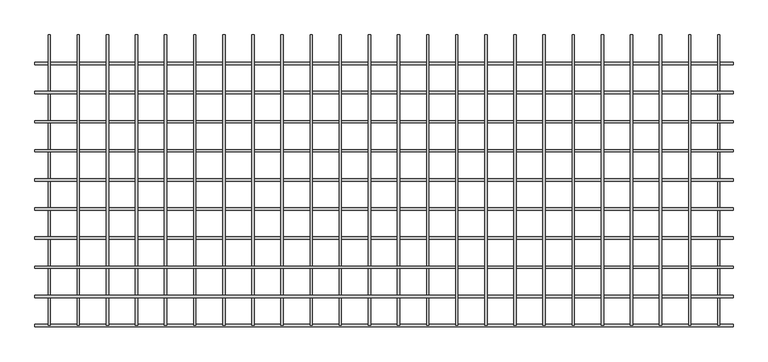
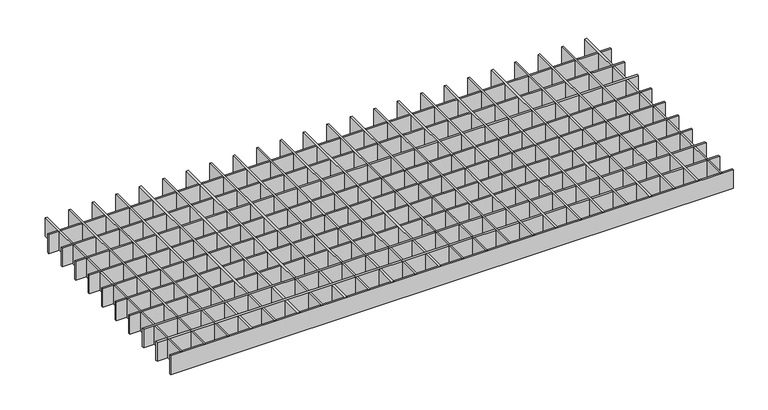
"""IFC4 building model written with IfcOpenShell, lengths in millimetres: proxy geometry, durlum_GEO_panel : durlum_GEO_4_width_cut."""

from ifc_helpers import new_model, si_unit, origin, origin_with_axes, place, context, project, spatial, polyline, outline, extrude, source, transform, mapped, element, save


def generic_models_507d97fd(model_context):
    return source(origin(), model_context, "Body", "SweptSolid", [
        extrude(outline(polyline([(523.0, 249.5), (527.0, 249.5), (527.0, -249.5), (523.0, -249.5), (523.0, 249.5)])), origin_with_axes(), (0.0, 0.0, 1.0), 42.0),
        extrude(outline(polyline([(473.0, 249.5), (477.0, 249.5), (477.0, -249.5), (473.0, -249.5), (473.0, 249.5)])), origin_with_axes(), (0.0, 0.0, 1.0), 42.0),
        extrude(outline(polyline([(423.0, 249.5), (427.0, 249.5), (427.0, -249.5), (423.0, -249.5), (423.0, 249.5)])), origin_with_axes(), (0.0, 0.0, 1.0), 42.0),
        extrude(outline(polyline([(373.0, 249.5), (377.0, 249.5), (377.0, -249.5), (373.0, -249.5), (373.0, 249.5)])), origin_with_axes(), (0.0, 0.0, 1.0), 42.0),
        extrude(outline(polyline([(323.0, 249.5), (327.0, 249.5), (327.0, -249.5), (323.0, -249.5), (323.0, 249.5)])), origin_with_axes(), (0.0, 0.0, 1.0), 42.0),
        extrude(outline(polyline([(273.0, 249.5), (277.0, 249.5), (277.0, -249.5), (273.0, -249.5), (273.0, 249.5)])), origin_with_axes(), (0.0, 0.0, 1.0), 42.0),
        extrude(outline(polyline([(223.0, 249.5), (227.0, 249.5), (227.0, -249.5), (223.0, -249.5), (223.0, 249.5)])), origin_with_axes(), (0.0, 0.0, 1.0), 42.0),
        extrude(outline(polyline([(173.0, 249.5), (177.0, 249.5), (177.0, -249.5), (173.0, -249.5), (173.0, 249.5)])), origin_with_axes(), (0.0, 0.0, 1.0), 42.0),
        extrude(outline(polyline([(123.0, 249.5), (127.0, 249.5), (127.0, -249.5), (123.0, -249.5), (123.0, 249.5)])), origin_with_axes(), (0.0, 0.0, 1.0), 42.0),
        extrude(outline(polyline([(599.5, -197.5), (599.5, -201.5), (-599.5, -201.5), (-599.5, -197.5), (599.5, -197.5)])), origin_with_axes(), (0.0, 0.0, 1.0), 42.0),
        extrude(outline(polyline([(599.5, -147.5), (599.5, -151.5), (-599.5, -151.5), (-599.5, -147.5), (599.5, -147.5)])), origin_with_axes(), (0.0, 0.0, 1.0), 42.0),
        extrude(outline(polyline([(73.0, 249.5), (77.0, 249.5), (77.0, -249.5), (73.0, -249.5), (73.0, 249.5)])), origin_with_axes(), (0.0, 0.0, 1.0), 42.0),
        extrude(outline(polyline([(23.0, 249.5), (27.0, 249.5), (27.0, -249.5), (23.0, -249.5), (23.0, 249.5)])), origin_with_axes(), (0.0, 0.0, 1.0), 42.0),
        extrude(outline(polyline([(-27.0, 249.5), (-23.0, 249.5), (-23.0, -249.5), (-27.0, -249.5), (-27.0, 249.5)])), origin_with_axes(), (0.0, 0.0, 1.0), 42.0),
        extrude(outline(polyline([(-77.0, 249.5), (-73.0, 249.5), (-73.0, -249.5), (-77.0, -249.5), (-77.0, 249.5)])), origin_with_axes(), (0.0, 0.0, 1.0), 42.0),
        extrude(outline(polyline([(-127.0, 249.5), (-123.0, 249.5), (-123.0, -249.5), (-127.0, -249.5), (-127.0, 249.5)])), origin_with_axes(), (0.0, 0.0, 1.0), 42.0),
        extrude(outline(polyline([(-177.0, 249.5), (-173.0, 249.5), (-173.0, -249.5), (-177.0, -249.5), (-177.0, 249.5)])), origin_with_axes(), (0.0, 0.0, 1.0), 42.0),
        extrude(outline(polyline([(-227.0, 249.5), (-223.0, 249.5), (-223.0, -249.5), (-227.0, -249.5), (-227.0, 249.5)])), origin_with_axes(), (0.0, 0.0, 1.0), 42.0),
        extrude(outline(polyline([(-277.0, 249.5), (-273.0, 249.5), (-273.0, -249.5), (-277.0, -249.5), (-277.0, 249.5)])), origin_with_axes(), (0.0, 0.0, 1.0), 42.0),
        extrude(outline(polyline([(-327.0, 249.5), (-323.0, 249.5), (-323.0, -249.5), (-327.0, -249.5), (-327.0, 249.5)])), origin_with_axes(), (0.0, 0.0, 1.0), 42.0),
        extrude(outline(polyline([(-377.0, 249.5), (-373.0, 249.5), (-373.0, -249.5), (-377.0, -249.5), (-377.0, 249.5)])), origin_with_axes(), (0.0, 0.0, 1.0), 42.0),
        extrude(outline(polyline([(-427.0, 249.5), (-423.0, 249.5), (-423.0, -249.5), (-427.0, -249.5), (-427.0, 249.5)])), origin_with_axes(), (0.0, 0.0, 1.0), 42.0),
        extrude(outline(polyline([(-477.0, 249.5), (-473.0, 249.5), (-473.0, -249.5), (-477.0, -249.5), (-477.0, 249.5)])), origin_with_axes(), (0.0, 0.0, 1.0), 42.0),
        extrude(outline(polyline([(-527.0, 249.5), (-523.0, 249.5), (-523.0, -249.5), (-527.0, -249.5), (-527.0, 249.5)])), origin_with_axes(), (0.0, 0.0, 1.0), 42.0),
        extrude(outline(polyline([(599.5, -97.5), (599.5, -101.5), (-599.5, -101.5), (-599.5, -97.5), (599.5, -97.5)])), origin_with_axes(), (0.0, 0.0, 1.0), 42.0),
        extrude(outline(polyline([(599.5, -47.5), (599.5, -51.5), (-599.5, -51.5), (-599.5, -47.5), (599.5, -47.5)])), origin_with_axes(), (0.0, 0.0, 1.0), 42.0),
        extrude(outline(polyline([(599.5, 2.5), (599.5, -1.5), (-599.5, -1.5), (-599.5, 2.5), (599.5, 2.5)])), origin_with_axes(), (0.0, 0.0, 1.0), 42.0),
        extrude(outline(polyline([(599.5, 52.5), (599.5, 48.5), (-599.5, 48.5), (-599.5, 52.5), (599.5, 52.5)])), origin_with_axes(), (0.0, 0.0, 1.0), 42.0),
        extrude(outline(polyline([(599.5, 102.5), (599.5, 98.5), (-599.5, 98.5), (-599.5, 102.5), (599.5, 102.5)])), origin_with_axes(), (0.0, 0.0, 1.0), 42.0),
        extrude(outline(polyline([(599.5, 152.5), (599.5, 148.5), (-599.5, 148.5), (-599.5, 152.5), (599.5, 152.5)])), origin_with_axes(), (0.0, 0.0, 1.0), 42.0),
        extrude(outline(polyline([(573.0, 249.5), (577.0, 249.5), (577.0, -249.5), (573.0, -249.5), (573.0, 249.5)])), origin_with_axes(), (0.0, 0.0, 1.0), 42.0),
        extrude(outline(polyline([(-577.0, 249.5), (-573.0, 249.5), (-573.0, -249.5), (-577.0, -249.5), (-577.0, 249.5)])), origin_with_axes(), (0.0, 0.0, 1.0), 42.0),
        extrude(outline(polyline([(599.5, -247.5), (599.5, -251.5), (-599.5, -251.5), (-599.5, -247.5), (599.5, -247.5)])), origin_with_axes(), (0.0, 0.0, 1.0), 42.0),
        extrude(outline(polyline([(599.5, 202.5), (599.5, 198.5), (-599.5, 198.5), (-599.5, 202.5), (599.5, 202.5)])), origin_with_axes(), (0.0, 0.0, 1.0), 42.0),
    ])


if __name__ == "__main__":
    model = new_model("IFC4")
    model_context = context("Model", 3, world=origin())
    ifc_project = project(units=[si_unit("LENGTHUNIT", "METRE", prefix="MILLI")], contexts=[model_context])
    site = spatial("IfcSite", under=ifc_project)
    building = spatial("IfcBuilding", under=site)
    placement = place(None, origin())
    generic_models_shape = generic_models_507d97fd(model_context)
    element("IfcBuildingElementProxy", 1, Name="durlum_GEO_panel : durlum_GEO_4_width_cut", ObjectType="durlum_GEO_panel : durlum_GEO_4_width_cut", at=placement, inside=building, context=model_context, shape_type="MappedRepresentation", body=[
        mapped(generic_models_shape, transform((0.0, 0.0, 0.0), x_axis=(1.0, 0.0, 0.0), y_axis=(0.0, 1.0, 0.0), z_axis=(0.0, 0.0, 1.0))),
    ])
    save(model, "model.ifc")
